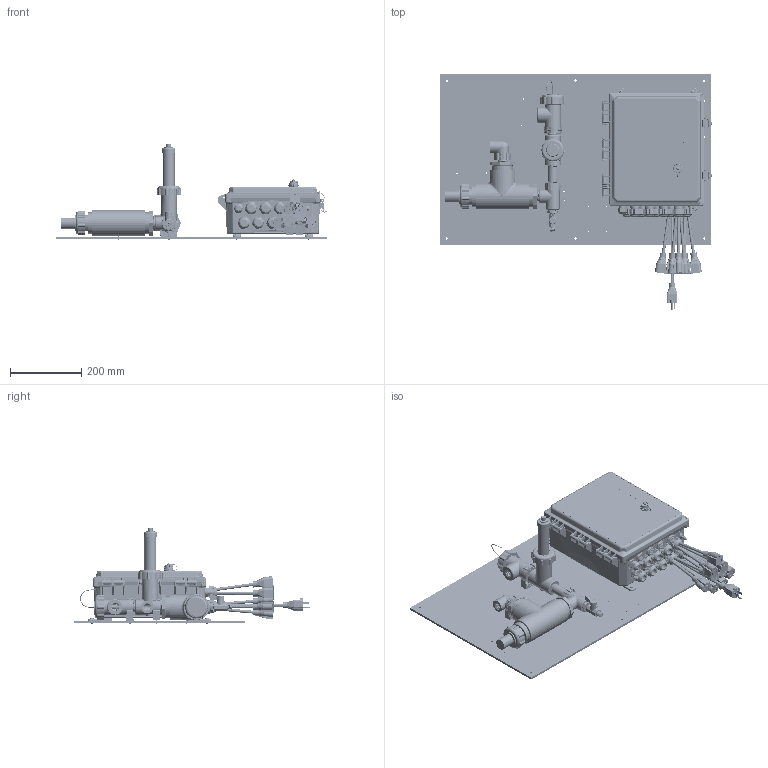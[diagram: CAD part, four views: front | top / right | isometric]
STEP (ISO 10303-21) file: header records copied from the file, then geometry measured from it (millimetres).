
FILE_DESCRIPTION (( 'STEP AP203' ), '1' );
FILE_NAME ('W900-CT-PCMNNN.STEP', '2019-05-28T19:14:33', ( '' ), ( '' ), 'SwSTEP 2.0', 'SolidWorks 2019', '' );
FILE_SCHEMA (( 'CONFIG_CONTROL_DESIGN' ));
Length unit declared in the file: inch
Products named in the file (50): SHELL-102961_30075T212; SHELL-102880; W900-CT-PCMNNN Manifold; SHELL-103425_4882K14; SHELL-103283-FT; SHELL-103515; 103861; SHELL-103886_98273A320; SHELL-102986; SHELL-102377_30075T211; SHELL-102884; IMS0035_91500A537; SHELL-102381_4880K345; ISA0006; SHELL-102961ws; SHELL-190996; SHELL-102377ws; SHELL-102884wo; SHELL-103893_91772A829; SHELL-103133; SHELL-102881; SHELL-191157wo; IMS0005; SHELL-102917; 102907; SHELL-103134; SHELL-102882; SHELL-102423; SHELL-191020-XX; W900-CT-PCMNNN; SHELL-102061; 102903_102903; SHELL-103859_Cord1; SHELL-102817-01; SHELL-102919; SHELL-191638; SHELL-102586; SHELL-102938; IMS0013; 102906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
Assembly tree (85 placements, depth 6):
  W900-CT-PCMNNN
    SHELL-102938
    W900 Shell
      W900 Shell
      SHELL-103283-FT  x4
      IMS0035_91500A537  x4
      SHELL-103893_91772A829  x4
      ISA0006
        102907
        102903_102903
        102906
        103860_Cord1  x3
        103861
      ISA0006
        102907
        102903_102903
        102906
        103860_Cord1  x3
        103861
      ISA0006
        102907
        102903_102903
        102906
        103860_Cord1  x3
        103861
      SHELL-103859_Cord1
    SHELL-102961ws
      SHELL-102961_30075T212
      SHELL-103886_98273A320
    W900-CT-PCMNNN Manifold
      Flow Switch Assembly
        SHELL-102881
        SHELL-191020-XX
          SHELL-102882
          SHELL-102919
          SHELL-102594
          SHELL-190996
            SHELL-102880
            SHELL-102986  x2
          IMS0005
        SHELL-102586
      SHELL-103425_4882K14  x3
      SHELL-102884wo
        SHELL-102884
        SHELL-102594
      SHELL-102917
      SHELL-102061
      SHELL-103515
        IMS0013
        IMS0012
      SHELL-102381_4880K345
      SHELL-191157wo
        SHELL-103133
        SHELL-103134  x2
        SHELL-102817-01
        SHELL-102594
      SHELL-102423
      SHELL-191638
      SHELL-103963
      SHELL-102586  x2
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Bounding box: 764.69 x 665.28 x 272.47 mm (x, y, z)
Volume: 5806275.3 mm3; surface area: 2340925.5 mm2
Topology: 118 solids, 118 shells, 17382 faces, 45495 edges, 28409 vertices
Faces by surface type: plane 7283, cylinder 5126, bspline 3281, cone 990, torus 565, sphere 137
Entity records: 654461 total; most frequent: CARTESIAN_POINT 339325, ORIENTED_EDGE 73924, DIRECTION 51639, EDGE_CURVE 36962, VERTEX_POINT 23168, AXIS2_PLACEMENT_3D 18003, LINE 15633, VECTOR 15633
